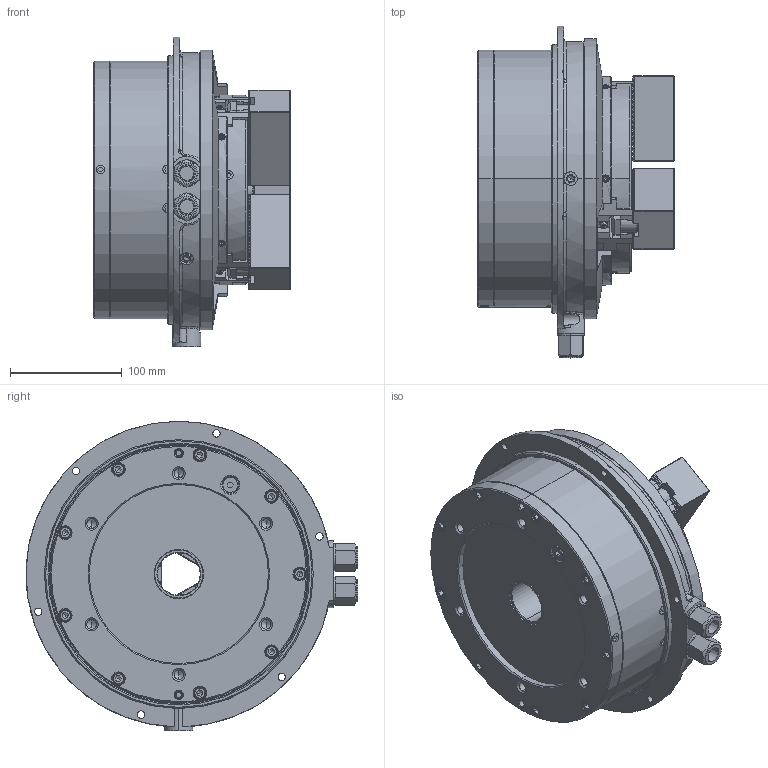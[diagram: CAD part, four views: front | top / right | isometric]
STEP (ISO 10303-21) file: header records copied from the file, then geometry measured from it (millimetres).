
FILE_DESCRIPTION (( 'STEP AP214' ), '1' );
FILE_NAME ('DEV-UVE160K-HUL.STEP', '2024-10-02T07:34:28', ( '' ), ( '' ), 'SwSTEP 2.0', 'SolidWorks 2022', '' );
FILE_SCHEMA (( 'AUTOMOTIVE_DESIGN' ));
Length unit declared in the file: millimetre
Products named in the file (6): DEV-UVE160K-HUL; Copy of 0030112030^DEV-UVE160K-クミタテ; Part2^DEV-UVE160K-クミタテ; Copy of 0693000003^DEV-UVE160K-クミタテ; Copy of 61P401345^DEV-UVE160K-クミタテ; Copy of 61P853952^DEV-UVE160K-クミタテ
Assembly tree (18 placements, depth 2):
  DEV-UVE160K-HUL
    Copy of 61P853952^DEV-UVE160K-クミタテ  x3
    Copy of 61P401345^DEV-UVE160K-クミタテ  x6
    Copy of 0030112030^DEV-UVE160K-クミタテ  x6
    Copy of 0693000003^DEV-UVE160K-クミタテ  x2
    Part2^DEV-UVE160K-クミタテ
Bounding box: 175.45 x 296.49 x 276.5 mm (x, y, z)
Volume: 5498520.5 mm3; surface area: 416896.6 mm2
Topology: 18 solids, 47 shells, 4902 faces, 13590 edges, 8857 vertices
Faces by surface type: plane 2814, cylinder 1272, cone 473, bspline 272, torus 51, sphere 20
Entity records: 128289 total; most frequent: CARTESIAN_POINT 40298, ORIENTED_EDGE 19906, DIRECTION 15966, EDGE_CURVE 9953, VERTEX_POINT 6514, VECTOR 6492, LINE 6492, AXIS2_PLACEMENT_3D 4737
